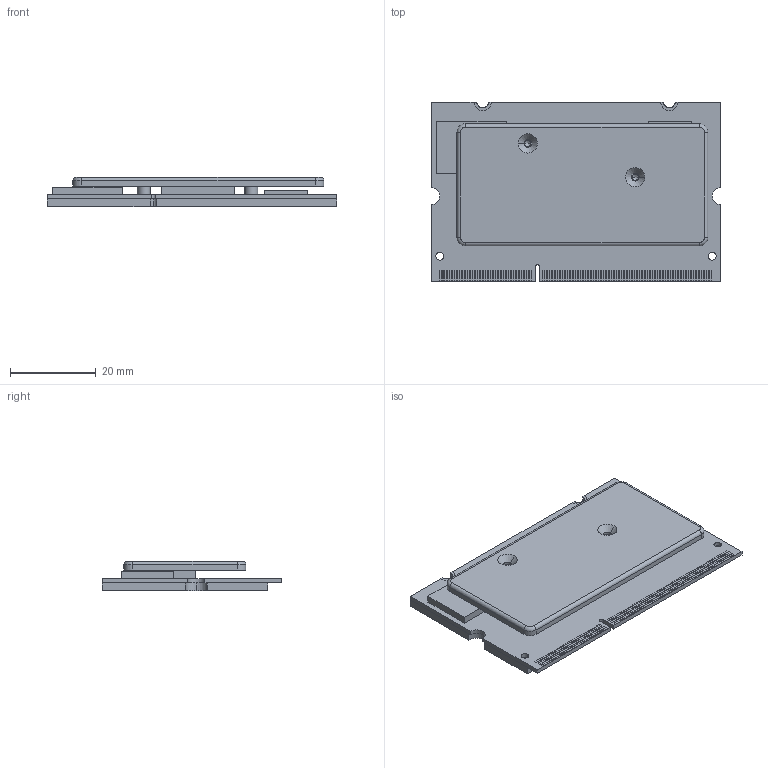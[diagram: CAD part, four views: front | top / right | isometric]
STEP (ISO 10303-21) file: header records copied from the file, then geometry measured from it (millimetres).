
FILE_DESCRIPTION (( 'STEP AP214' ), '1' );
FILE_NAME ('SOM-iMX8 Assembly.STEP', '2019-07-28T11:42:49', ( '' ), ( '' ), 'SwSTEP 2.0', 'SolidWorks 2019', '' );
FILE_SCHEMA (( 'AUTOMOTIVE_DESIGN' ));
Length unit declared in the file: millimetre
Products named in the file (3): SOM-iMX8 Assembly; Heat_Plate_Rev1.1; SOM-IMX8_REV1.1_PCB
Assembly tree (2 placements, depth 2):
  SOM-iMX8 Assembly
    SOM-IMX8_REV1.1_PCB
    Heat_Plate_Rev1.1
Bounding box: 67.6 x 42 x 6.79 mm (x, y, z)
Volume: 11793.1 mm3; surface area: 10842 mm2
Topology: 3 solids, 3 shells, 624 faces, 1509 edges, 997 vertices
Faces by surface type: plane 567, cylinder 43, cone 8, torus 4, bspline 2
Entity records: 24090 total; most frequent: CARTESIAN_POINT 3157, ORIENTED_EDGE 3010, DIRECTION 2853, EDGE_CURVE 1505, LINE 1403, VECTOR 1403, VERTEX_POINT 997, EDGE_LOOP 742
